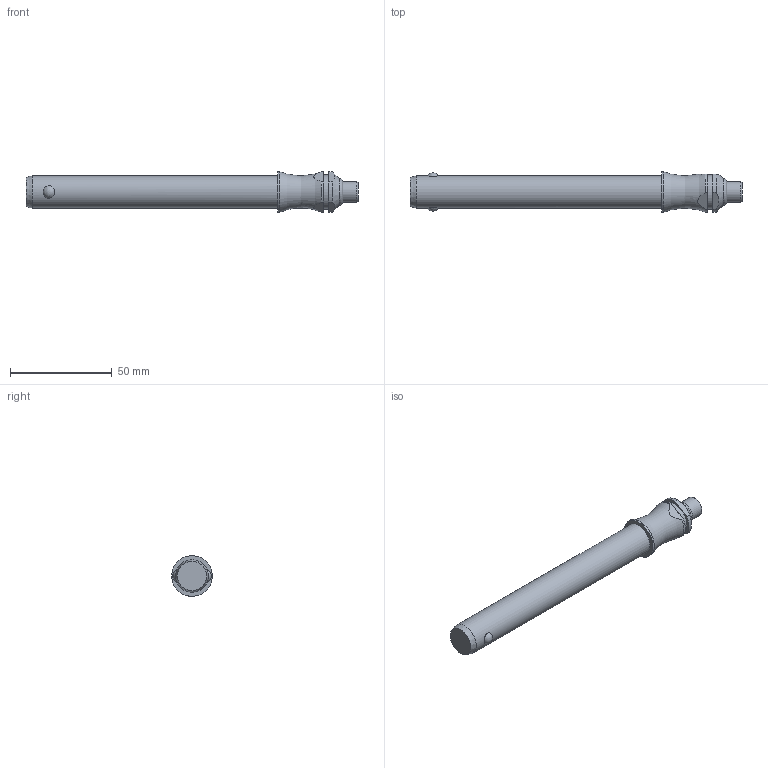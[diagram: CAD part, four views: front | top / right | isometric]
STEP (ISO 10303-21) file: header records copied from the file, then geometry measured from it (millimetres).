
FILE_DESCRIPTION( ( 'STEP AP203' ), '1' );
FILE_NAME( 'C:/Temp/Ganter_Step_05_03_2020/data/3_1/gn113_3/Stainless Steel-Ball lock pin GN 113.3-16-110 (deactivated).stp', '2020-03-12T08:18:58', ( 'License CC BY-ND 4.0' ), ( 'CADENAS' ), ' ', 'PARTsolutions', ' ' );
FILE_SCHEMA( ( 'CONFIG_CONTROL_DESIGN' ) );
Length unit declared in the file: millimetre
Products named in the file (1): _Stainless Steel-Ball lock pin GN 113.3-16-110 (deactivated)
Bounding box: 163.5 x 20 x 20 mm (x, y, z)
Volume: 32880.9 mm3; surface area: 8793 mm2
Topology: 1 solids, 1 shells, 28 faces, 60 edges, 39 vertices
Faces by surface type: plane 11, cylinder 10, cone 3, torus 2, sphere 2
Full cylindrical faces by diameter (mm): 10 x1, 16 x1, 17 x1, 20 x1
Entity records: 966 total; most frequent: CARTESIAN_POINT 350, DIRECTION 122, ORIENTED_EDGE 98, AXIS2_PLACEMENT_3D 52, EDGE_CURVE 49, EDGE_LOOP 42, VERTEX_POINT 38, FACE_OUTER_BOUND 34
